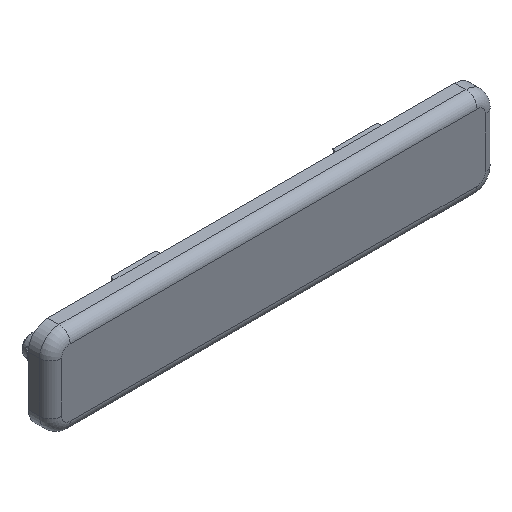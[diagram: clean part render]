
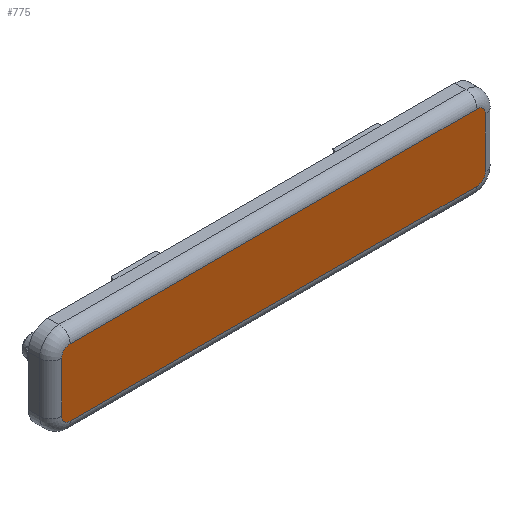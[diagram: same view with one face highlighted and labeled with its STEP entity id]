
A CAD part, isometric view. The second image highlights one B-rep face of the part: STEP entity #775.
In plain terms, the highlighted planar face has unit normal (0, -1, 0) as drawn and (0, 0, 1) by its records, which use the part's own axes.
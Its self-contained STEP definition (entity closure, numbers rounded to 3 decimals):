
#47 = CARTESIAN_POINT ( 'NONE',  ( 38., 4.5, 0. ) ) ;
#230 = VERTEX_POINT ( 'NONE', #5881 ) ;
#323 = ORIENTED_EDGE ( 'NONE', *, *, #1264, .T. ) ;
#354 = DIRECTION ( 'NONE',  ( 0., -1., 0. ) ) ;
#385 = DIRECTION ( 'NONE',  ( 0., -1., 0. ) ) ;
#415 = DIRECTION ( 'NONE',  ( 0., 0., 1. ) ) ;
#566 = CIRCLE ( 'NONE', #1926, 1.5 ) ;
#643 = LINE ( 'NONE', #4583, #6063 ) ;
#696 = EDGE_CURVE ( 'NONE', #5251, #230, #3501, .T. ) ;
#758 = CARTESIAN_POINT ( 'NONE',  ( 36.5, 6., 0. ) ) ;
#775 = ADVANCED_FACE ( 'NONE', ( #4969 ), #4072, .T. ) ;
#778 = EDGE_CURVE ( 'NONE', #2207, #6149, #4504, .T. ) ;
#850 = ORIENTED_EDGE ( 'NONE', *, *, #5400, .T. ) ;
#910 = CARTESIAN_POINT ( 'NONE',  ( -38., 4.5, 0. ) ) ;
#1003 = DIRECTION ( 'NONE',  ( 1., 0., 0. ) ) ;
#1004 = DIRECTION ( 'NONE',  ( 0., -1., 0. ) ) ;
#1264 = EDGE_CURVE ( 'NONE', #6149, #4608, #566, .T. ) ;
#1349 = CARTESIAN_POINT ( 'NONE',  ( 36.5, 4.5, 0. ) ) ;
#1435 = EDGE_LOOP ( 'NONE', ( #323, #1818, #5183, #3889, #2436, #850, #2912, #1847 ) ) ;
#1542 = EDGE_CURVE ( 'NONE', #4608, #4205, #643, .T. ) ;
#1565 = DIRECTION ( 'NONE',  ( 0., -1., 0. ) ) ;
#1818 = ORIENTED_EDGE ( 'NONE', *, *, #1542, .T. ) ;
#1847 = ORIENTED_EDGE ( 'NONE', *, *, #778, .T. ) ;
#1926 = AXIS2_PLACEMENT_3D ( 'NONE', #1349, #5721, #354 ) ;
#1980 = CARTESIAN_POINT ( 'NONE',  ( 38., -4.5, 0. ) ) ;
#2028 = AXIS2_PLACEMENT_3D ( 'NONE', #5517, #3081, #5582 ) ;
#2207 = VERTEX_POINT ( 'NONE', #1980 ) ;
#2436 = ORIENTED_EDGE ( 'NONE', *, *, #5235, .T. ) ;
#2508 = DIRECTION ( 'NONE',  ( 0., 1., 0. ) ) ;
#2511 = LINE ( 'NONE', #6403, #3079 ) ;
#2537 = DIRECTION ( 'NONE',  ( 0., -1., 0. ) ) ;
#2561 = CIRCLE ( 'NONE', #5361, 1.5 ) ;
#2673 = DIRECTION ( 'NONE',  ( -1., 0., 0. ) ) ;
#2912 = ORIENTED_EDGE ( 'NONE', *, *, #4301, .T. ) ;
#2927 = EDGE_CURVE ( 'NONE', #4205, #5251, #4816, .T. ) ;
#3079 = VECTOR ( 'NONE', #1003, 1000. ) ;
#3081 = DIRECTION ( 'NONE',  ( 0., 0., 1. ) ) ;
#3161 = CARTESIAN_POINT ( 'NONE',  ( 36.5, -6., 0. ) ) ;
#3501 = LINE ( 'NONE', #5490, #5489 ) ;
#3760 = CARTESIAN_POINT ( 'NONE',  ( -36.5, -4.5, 0. ) ) ;
#3795 = AXIS2_PLACEMENT_3D ( 'NONE', #3760, #415, #385 ) ;
#3889 = ORIENTED_EDGE ( 'NONE', *, *, #696, .T. ) ;
#4065 = VERTEX_POINT ( 'NONE', #4711 ) ;
#4072 = PLANE ( 'NONE',  #2028 ) ;
#4079 = VECTOR ( 'NONE', #2508, 1000. ) ;
#4192 = AXIS2_PLACEMENT_3D ( 'NONE', #6368, #5843, #1004 ) ;
#4205 = VERTEX_POINT ( 'NONE', #5364 ) ;
#4301 = EDGE_CURVE ( 'NONE', #4814, #2207, #2561, .T. ) ;
#4376 = CARTESIAN_POINT ( 'NONE',  ( 36.5, -4.5, 0. ) ) ;
#4504 = LINE ( 'NONE', #47, #4079 ) ;
#4583 = CARTESIAN_POINT ( 'NONE',  ( -36.5, 6., 0. ) ) ;
#4608 = VERTEX_POINT ( 'NONE', #758 ) ;
#4711 = CARTESIAN_POINT ( 'NONE',  ( -36.5, -6., 0. ) ) ;
#4814 = VERTEX_POINT ( 'NONE', #3161 ) ;
#4816 = CIRCLE ( 'NONE', #4192, 1.5 ) ;
#4922 = CARTESIAN_POINT ( 'NONE',  ( 38., 4.5, 0. ) ) ;
#4969 = FACE_OUTER_BOUND ( 'NONE', #1435, .T. ) ;
#5183 = ORIENTED_EDGE ( 'NONE', *, *, #2927, .T. ) ;
#5235 = EDGE_CURVE ( 'NONE', #230, #4065, #6297, .T. ) ;
#5251 = VERTEX_POINT ( 'NONE', #910 ) ;
#5361 = AXIS2_PLACEMENT_3D ( 'NONE', #4376, #6365, #2537 ) ;
#5364 = CARTESIAN_POINT ( 'NONE',  ( -36.5, 6., 0. ) ) ;
#5400 = EDGE_CURVE ( 'NONE', #4065, #4814, #2511, .T. ) ;
#5489 = VECTOR ( 'NONE', #1565, 1000. ) ;
#5490 = CARTESIAN_POINT ( 'NONE',  ( -38., 4.5, 0. ) ) ;
#5517 = CARTESIAN_POINT ( 'NONE',  ( -36.5, 4.5, 0. ) ) ;
#5582 = DIRECTION ( 'NONE',  ( 0., -1., 0. ) ) ;
#5721 = DIRECTION ( 'NONE',  ( 0., 0., 1. ) ) ;
#5843 = DIRECTION ( 'NONE',  ( 0., 0., 1. ) ) ;
#5881 = CARTESIAN_POINT ( 'NONE',  ( -38., -4.5, 0. ) ) ;
#6063 = VECTOR ( 'NONE', #2673, 1000. ) ;
#6149 = VERTEX_POINT ( 'NONE', #4922 ) ;
#6297 = CIRCLE ( 'NONE', #3795, 1.5 ) ;
#6365 = DIRECTION ( 'NONE',  ( 0., 0., 1. ) ) ;
#6368 = CARTESIAN_POINT ( 'NONE',  ( -36.5, 4.5, 0. ) ) ;
#6403 = CARTESIAN_POINT ( 'NONE',  ( -36.5, -6., 0. ) ) ;
